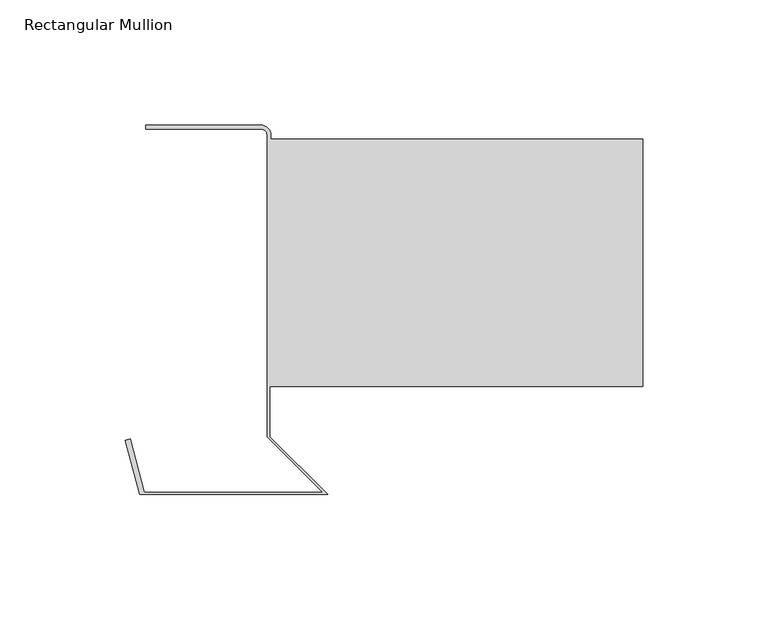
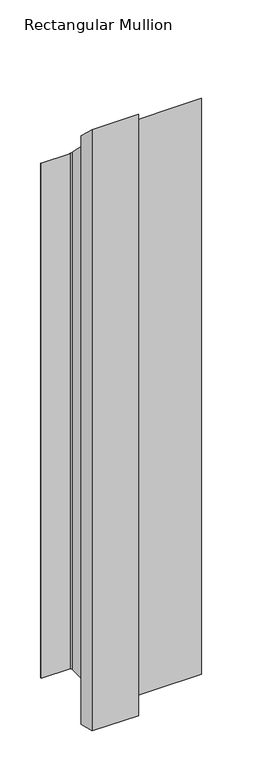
"""IFC4 building model written with IfcOpenShell, lengths in millimetres: member geometry, Rectangular Mullion : TE-V-02_01_Base detail i."""

from ifc_helpers import new_model, si_unit, frame, origin, place, context, project, spatial, polyline, circle_curve, ellipse_curve, source, transform, mapped, element, save
from ifc_brep_helpers import plane_surface, cylinder_surface, revolved_surface, advanced_brep


def rectangular_mullion_03bf972b(model_context):
    return source(origin(), model_context, "Body", "AdvancedBrep", [
        advanced_brep(
        [(-148.8686292, 20.0, -1000.0000003), (-148.8686292, 0.0, -1000.0000003), (-125.8686292, -23.0, -1000.0000003), (-200.8686292, -23.0, -1000.0000003), (-206.6383068, -1.4672699, -1000.0000003), (-204.7064551, -0.9496318, -1000.0000003), (-199.0124361, -22.2, -1000.0000003), (-127.8, -22.2, -1000.0000003), (-150.0, 0.0, -1000.0000003), (-150.0, 120.5, -1000.0000003), (-152.5, 123.0, -1000.0000003), (-198.5, 123.0, -1000.0000003), (-198.5, 124.5, -1000.0000003), (-152.5, 124.5, -1000.0000003), (-148.5, 120.5, -1000.0000003), (-148.5, 119.0, -1000.0000003), (0.0, 119.0, -1000.0000003), (0.0, 20.0, -1000.0000003), (0.0, 20.0, -20.0), (-148.8686292, 20.0, -20.0), (0.0, 119.0, -119.0), (-148.5, 119.0, -119.0), (-148.5, 120.5, -120.5), (-152.5, 124.5, -124.5), (-198.5, 124.5, -124.5), (-198.5, 123.0, -123.0), (-152.5, 123.0, -123.0), (-150.0, 120.5, -120.5), (-150.0, 0.0, 0.0), (-127.8, -22.2, 22.2), (-199.0124361, -22.2, 22.2), (-204.7064551, -0.9496318, 0.9496318), (-206.6383068, -1.4672699, 1.4672699), (-200.8686292, -23.0, 23.0), (-125.8686292, -23.0, 23.0), (-148.8686292, 0.0, 0.0)],
        [
            (0, 1),
            (1, 2),
            (2, 3),
            (3, 4),
            (4, 5),
            (5, 6),
            (6, 7),
            (7, 8),
            (8, 9),
            (9, 10, circle_curve(frame((-152.5, 120.5, -1000.0000003), z_axis=(0.0, 0.0, 1.0), x_axis=(-1.0, 0.0, 0.0)), 2.5)),
            (10, 11),
            (11, 12),
            (12, 13),
            (13, 14, circle_curve(frame((-152.5, 120.5, -1000.0000003), z_axis=(0.0, 0.0, -1.0), x_axis=(-1.0, 0.0, 0.0)), 4.0)),
            (14, 15),
            (15, 16),
            (16, 17),
            (17, 0),
            (18, 19),
            (19, 0),
            (17, 18),
            (20, 18),
            (16, 20),
            (21, 20),
            (15, 21),
            (22, 21),
            (14, 22),
            (23, 22, ellipse_curve(frame((-152.5, 120.5, -120.5), z_axis=(0.0, -0.7071067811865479, -0.7071067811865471), x_axis=(0.0, -0.7071067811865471, 0.7071067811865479)), 5.6568542, 4.0)),
            (13, 23),
            (24, 23),
            (12, 24),
            (25, 24),
            (11, 25),
            (26, 25),
            (10, 26),
            (27, 26, ellipse_curve(frame((-152.5, 120.5, -120.5), z_axis=(0.0, 0.7071067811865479, 0.7071067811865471), x_axis=(0.0, 0.7071067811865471, -0.7071067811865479)), 3.5355339, 2.5)),
            (9, 27),
            (28, 27),
            (8, 28),
            (29, 28),
            (7, 29),
            (30, 29),
            (6, 30),
            (31, 30),
            (5, 31),
            (32, 31),
            (4, 32),
            (33, 32),
            (3, 33),
            (34, 33),
            (2, 34),
            (35, 34),
            (1, 35),
            (19, 35),
        ],
        [
            plane_surface(frame((0.0, -234.3128251, -1000.0000003), z_axis=(0.0, 0.0, -1.0), x_axis=(-1.0, 0.0, 0.0))),
            plane_surface(frame((-148.8686292, 20.0, 0.0), z_axis=(0.0, -1.0, 0.0), x_axis=(0.0, 0.0, -1.0))),
            plane_surface(frame((0.0, 20.0, 0.0), z_axis=(1.0, 0.0, 0.0), x_axis=(0.0, 0.0, -1.0))),
            plane_surface(frame((0.0, 119.0, 0.0), z_axis=(0.0, 1.0, 0.0), x_axis=(0.0, 0.0, -1.0))),
            plane_surface(frame((-148.5, 119.0, 0.0), z_axis=(1.0, 0.0, 0.0), x_axis=(0.0, 0.0, -1.0))),
            cylinder_surface(frame((-152.5, 120.5, 0.0), z_axis=(0.0, 0.0, 1.0), x_axis=(-1.0, 0.0, 0.0)), 4.0),
            plane_surface(frame((-152.5, 124.5, 0.0), z_axis=(0.0, 1.0, 0.0), x_axis=(0.0, 0.0, -1.0))),
            plane_surface(frame((-198.5, 124.5, 0.0), z_axis=(-1.0, 0.0, 0.0), x_axis=(0.0, 0.0, -1.0))),
            plane_surface(frame((-198.5, 123.0, 0.0), z_axis=(0.0, -1.0, 0.0), x_axis=(0.0, 0.0, -1.0))),
            revolved_surface(polyline([(-155.0, 120.5, -1000.0000003), (-155.0, 120.5, -118.00000000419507)]), (-152.5, 120.5, 0.0), (0.0, 0.0, -1.0)),
            plane_surface(frame((-150.0, 120.5, 0.0), z_axis=(-1.0, 0.0, 0.0), x_axis=(0.0, 0.0, -1.0))),
            plane_surface(frame((-150.0, 0.0, 0.0), z_axis=(-0.7071067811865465, -0.7071067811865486, 0.0), x_axis=(0.0, 0.0, -1.0))),
            plane_surface(frame((-127.8, -22.2, 0.0), z_axis=(0.0, 1.0, 0.0), x_axis=(0.0, 0.0, -1.0))),
            plane_surface(frame((-199.0124361, -22.2, 0.0), z_axis=(0.9659258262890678, 0.2588190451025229, 0.0), x_axis=(0.0, 0.0, -1.0))),
            plane_surface(frame((-204.7064551, -0.9496318, 0.0), z_axis=(-0.25881904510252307, 0.9659258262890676, 0.0), x_axis=(0.0, 0.0, -1.0))),
            plane_surface(frame((-206.6383068, -1.4672699, 0.0), z_axis=(-0.9659258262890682, -0.2588190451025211, 0.0), x_axis=(0.0, 0.0, -1.0))),
            plane_surface(frame((-200.8686292, -23.0, 0.0), z_axis=(0.0, -1.0, 0.0), x_axis=(0.0, 0.0, -1.0))),
            plane_surface(frame((-125.8686292, -23.0, 0.0), z_axis=(0.7071067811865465, 0.7071067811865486, 0.0), x_axis=(0.0, 0.0, -1.0))),
            plane_surface(frame((-148.8686292, 0.0, 0.0), z_axis=(1.0, 0.0, 0.0), x_axis=(0.0, 0.0, -1.0))),
            plane_surface(frame((-304.8, 0.0, 0.0), z_axis=(0.0, 0.7071067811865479, 0.7071067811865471), x_axis=(0.0, 0.7071067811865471, -0.7071067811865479))),
        ],
        [
            (0, [[1, 2, 3, 4, 5, 6, 7, 8, 9, 10, 11, 12, 13, 14, 15, 16, 17, 18]]),
            (1, [[19, 20, -18, 21]]),
            (2, [[22, -21, -17, 23]]),
            (3, [[24, -23, -16, 25]]),
            (4, [[26, -25, -15, 27]]),
            (5, [[28, -27, -14, 29]]),
            (6, [[30, -29, -13, 31]]),
            (7, [[32, -31, -12, 33]]),
            (8, [[34, -33, -11, 35]]),
            (9, [[36, -35, -10, 37]]),
            (10, [[38, -37, -9, 39]]),
            (11, [[40, -39, -8, 41]]),
            (12, [[42, -41, -7, 43]]),
            (13, [[44, -43, -6, 45]]),
            (14, [[46, -45, -5, 47]]),
            (15, [[48, -47, -4, 49]]),
            (16, [[50, -49, -3, 51]]),
            (17, [[52, -51, -2, 53]]),
            (18, [[54, -53, -1, -20]]),
            (19, [[-19, -22, -24, -26, -28, -30, -32, -34, -36, -38, -40, -42, -44, -46, -48, -50, -52, -54]]),
        ],
    ),
    ])


if __name__ == "__main__":
    model = new_model("IFC4")
    model_context = context("Model", 3, world=origin())
    ifc_project = project(units=[si_unit("LENGTHUNIT", "METRE", prefix="MILLI")], contexts=[model_context])
    site = spatial("IfcSite", under=ifc_project)
    building = spatial("IfcBuilding", under=site)
    placement = place(None, origin())
    rectangular_mullion_shape = rectangular_mullion_03bf972b(model_context)
    element("IfcMember", 1, ObjectType="Rectangular Mullion : TE-V-02_01_Base detail i", at=placement, inside=building, context=model_context, shape_type="MappedRepresentation", body=[
        mapped(rectangular_mullion_shape, transform((0.0, 0.0, 0.0), x_axis=(1.0, 0.0, 0.0), y_axis=(0.0, 1.0, 0.0), z_axis=(0.0, 0.0, 1.0))),
    ])
    save(model, "model.ifc")
